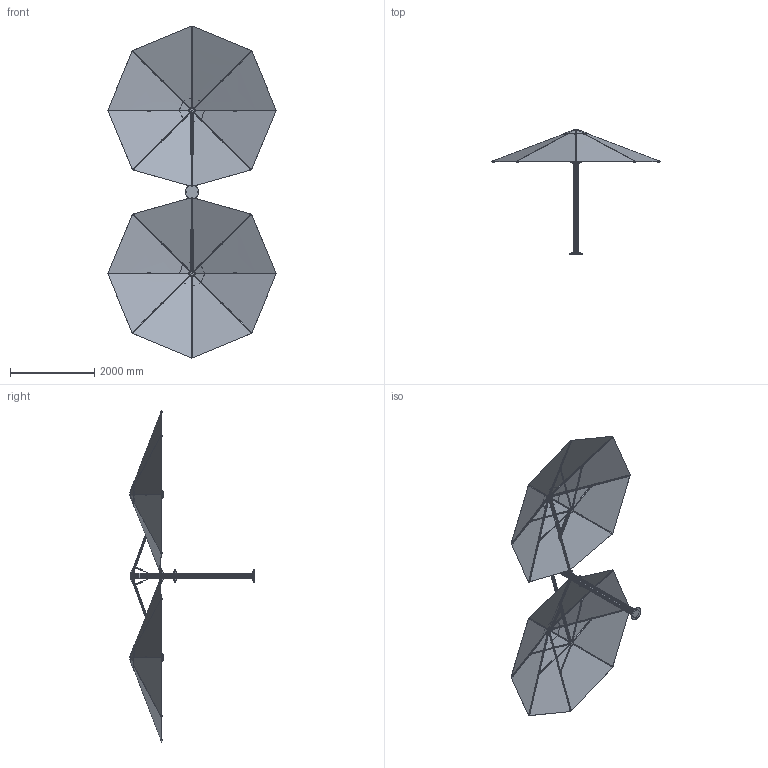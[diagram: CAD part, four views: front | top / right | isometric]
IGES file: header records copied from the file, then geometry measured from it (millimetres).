
Start section: SolidWorks IGES file using analytic representation for surfaces
Global section: file name: S:\RESEARCH and DEVELOPMENT\UnitySerenity Simple CAD Models\1. Export CAD\IGES Files\Unity 4M Octagonal Duo.IGS; native system: SolidWorks 2017; preprocessor: SolidWorks 2017; author: Peter; date: 200619.113432; units: millimetre
Bounding box: 3994.32 x 2950.74 x 7871.84 mm (x, y, z)
Surface area: 57296068.2 mm2 (no closed solid volume)
Topology: 0 solids, 0 shells, 3922 faces, 50646 edges, 50572 vertices
Faces by surface type: bspline 2052, revolution 1870
